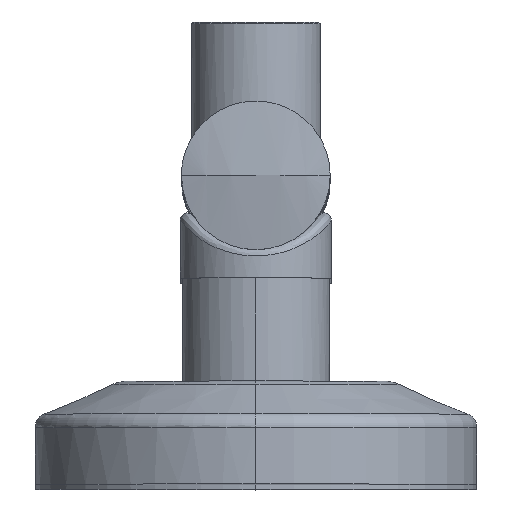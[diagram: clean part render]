
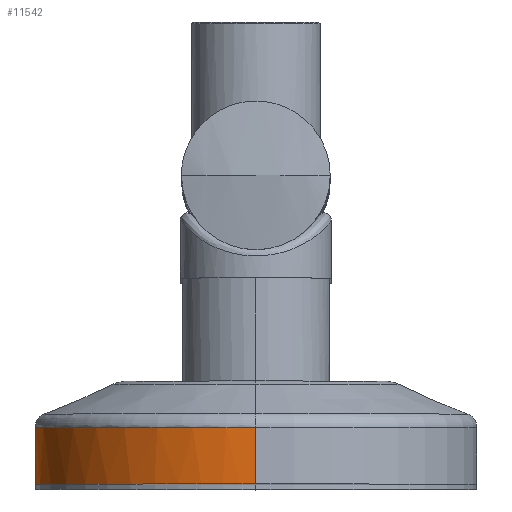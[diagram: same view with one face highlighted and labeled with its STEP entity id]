
A CAD part, top view. The second image highlights one B-rep face of the part: STEP entity #11542.
In plain terms, the highlighted cylindrical face has radius 30 mm (diameter 60 mm), a partial arc.
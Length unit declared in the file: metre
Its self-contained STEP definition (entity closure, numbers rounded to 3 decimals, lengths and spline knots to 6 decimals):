
#11415=VERTEX_POINT('',#11416);
#11416=CARTESIAN_POINT('',(0.0,-0.006311,-0.03));
#11422=CARTESIAN_POINT('',(0.0,-0.006311,0.03));
#11424=EDGE_CURVE('',#11425,#11415,#11427,.T.);
#11425=VERTEX_POINT('',#11426);
#11426=CARTESIAN_POINT('',(0.0,-0.006311,0.03));
#11427=(B_SPLINE_CURVE(3,(#11422,#11428,#11429,#11430),.UNSPECIFIED.,.F.,
  .U.)B_SPLINE_CURVE_WITH_KNOTS((4,4),(0.0,1.0),.UNSPECIFIED.)BOUNDED_CURVE(
  )CURVE()GEOMETRIC_REPRESENTATION_ITEM()RATIONAL_B_SPLINE_CURVE((1.0,
  0.333,0.333,1.0))REPRESENTATION_ITEM(''));
#11428=CARTESIAN_POINT('',(-0.06,-0.006311,0.03));
#11429=CARTESIAN_POINT('',(-0.06,-0.006311,-0.03));
#11430=CARTESIAN_POINT('',(0.0,-0.006311,-0.03));
#11461=CYLINDRICAL_SURFACE('',#11462,0.03);
#11462=AXIS2_PLACEMENT_3D('',#11463,#11464,#11465);
#11463=CARTESIAN_POINT('',(0.0,0.0,0.0));
#11464=DIRECTION('',(0.0,1.0,0.0));
#11465=DIRECTION('',(0.0,0.0,1.0));
#11470=VERTEX_POINT('',#11471);
#11471=CARTESIAN_POINT('',(0.0,-0.014,0.03));
#11472=VERTEX_POINT('',#11473);
#11473=CARTESIAN_POINT('',(0.0,-0.014,-0.03));
#11480=EDGE_CURVE('',#11472,#11415,#11481,.T.);
#11481=LINE('',#11482,#11483);
#11482=CARTESIAN_POINT('',(0.0,0.0,-0.03));
#11483=VECTOR('',#11484,1.0);
#11484=DIRECTION('',(0.0,1.0,0.0));
#11493=EDGE_CURVE('',#11470,#11425,#11494,.T.);
#11494=LINE('',#11495,#11496);
#11495=CARTESIAN_POINT('',(0.0,-0.005,0.03));
#11496=VECTOR('',#11497,1.0);
#11497=DIRECTION('',(0.0,1.0,0.0));
#11534=CARTESIAN_POINT('',(0.0,-0.014,-0.03));
#11535=EDGE_CURVE('',#11472,#11470,#11536,.T.);
#11536=(B_SPLINE_CURVE(3,(#11534,#11537,#11538,#11539),.UNSPECIFIED.,.F.,
  .U.)B_SPLINE_CURVE_WITH_KNOTS((4,4),(0.0,1.0),.UNSPECIFIED.)BOUNDED_CURVE(
  )CURVE()GEOMETRIC_REPRESENTATION_ITEM()RATIONAL_B_SPLINE_CURVE((1.0,
  0.333,0.333,1.0))REPRESENTATION_ITEM(''));
#11537=CARTESIAN_POINT('',(-0.06,-0.014,-0.03));
#11538=CARTESIAN_POINT('',(-0.06,-0.014,0.03));
#11539=CARTESIAN_POINT('',(0.0,-0.014,0.03));
#11540=FACE_OUTER_BOUND('',#11543,.T.);
#11542=ADVANCED_FACE('',(#11540),#11461,.T.);
#11543=EDGE_LOOP('',(#11544,#11545,#11546,#11547));
#11544=ORIENTED_EDGE('',*,*,#11480,.F.);
#11545=ORIENTED_EDGE('',*,*,#11535,.T.);
#11546=ORIENTED_EDGE('',*,*,#11493,.T.);
#11547=ORIENTED_EDGE('',*,*,#11424,.T.);
